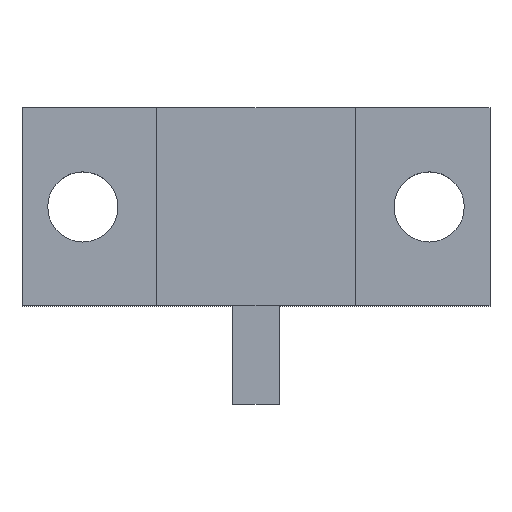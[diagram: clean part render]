
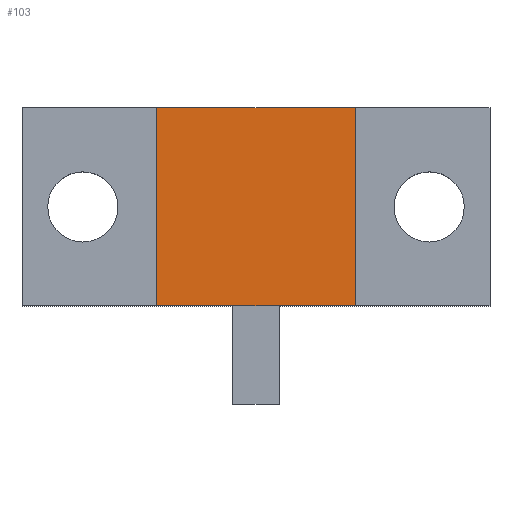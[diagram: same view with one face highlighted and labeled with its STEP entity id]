
A CAD part, top view. The second image highlights one B-rep face of the part: STEP entity #103.
In plain terms, the highlighted planar face has unit normal (0, 0, 1).
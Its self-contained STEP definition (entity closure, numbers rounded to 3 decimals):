
#103=ADVANCED_FACE('',(#248),#250,.T.);
#248=FACE_BOUND('',#249,.T.);
#249=EDGE_LOOP('',(#372,#373,#374,#375));
#250=PLANE('',#251);
#251=AXIS2_PLACEMENT_3D('',#252,#253,#254);
#252=CARTESIAN_POINT('',(0.,0.,6.8));
#253=DIRECTION('',(0.,0.,1.));
#254=DIRECTION('',(-1.,0.,0.));
#372=ORIENTED_EDGE('',*,*,#424,.T.);
#373=ORIENTED_EDGE('',*,*,#444,.T.);
#374=ORIENTED_EDGE('',*,*,#445,.T.);
#375=ORIENTED_EDGE('',*,*,#446,.T.);
#424=EDGE_CURVE('',#464,#465,#466,.T.);
#444=EDGE_CURVE('',#465,#500,#501,.T.);
#445=EDGE_CURVE('',#500,#502,#503,.T.);
#446=EDGE_CURVE('',#502,#464,#504,.T.);
#464=VERTEX_POINT('',#532);
#465=VERTEX_POINT('',#533);
#466=LINE('',#534,#535);
#500=VERTEX_POINT('',#608);
#501=LINE('',#609,#610);
#502=VERTEX_POINT('',#612);
#503=LINE('',#613,#614);
#504=LINE('',#616,#617);
#532=CARTESIAN_POINT('',(-6.35,-6.35,6.8));
#533=CARTESIAN_POINT('',(6.35,-6.35,6.8));
#534=CARTESIAN_POINT('',(-6.35,-6.35,6.8));
#535=VECTOR('',#536,1.);
#536=DIRECTION('',(1.,0.,0.));
#608=CARTESIAN_POINT('',(6.35,6.35,6.8));
#609=CARTESIAN_POINT('',(6.35,-6.35,6.8));
#610=VECTOR('',#611,1.);
#611=DIRECTION('',(0.,1.,0.));
#612=CARTESIAN_POINT('',(-6.35,6.35,6.8));
#613=CARTESIAN_POINT('',(6.35,6.35,6.8));
#614=VECTOR('',#615,1.);
#615=DIRECTION('',(-1.,0.,0.));
#616=CARTESIAN_POINT('',(-6.35,6.35,6.8));
#617=VECTOR('',#618,1.);
#618=DIRECTION('',(0.,-1.,0.));
